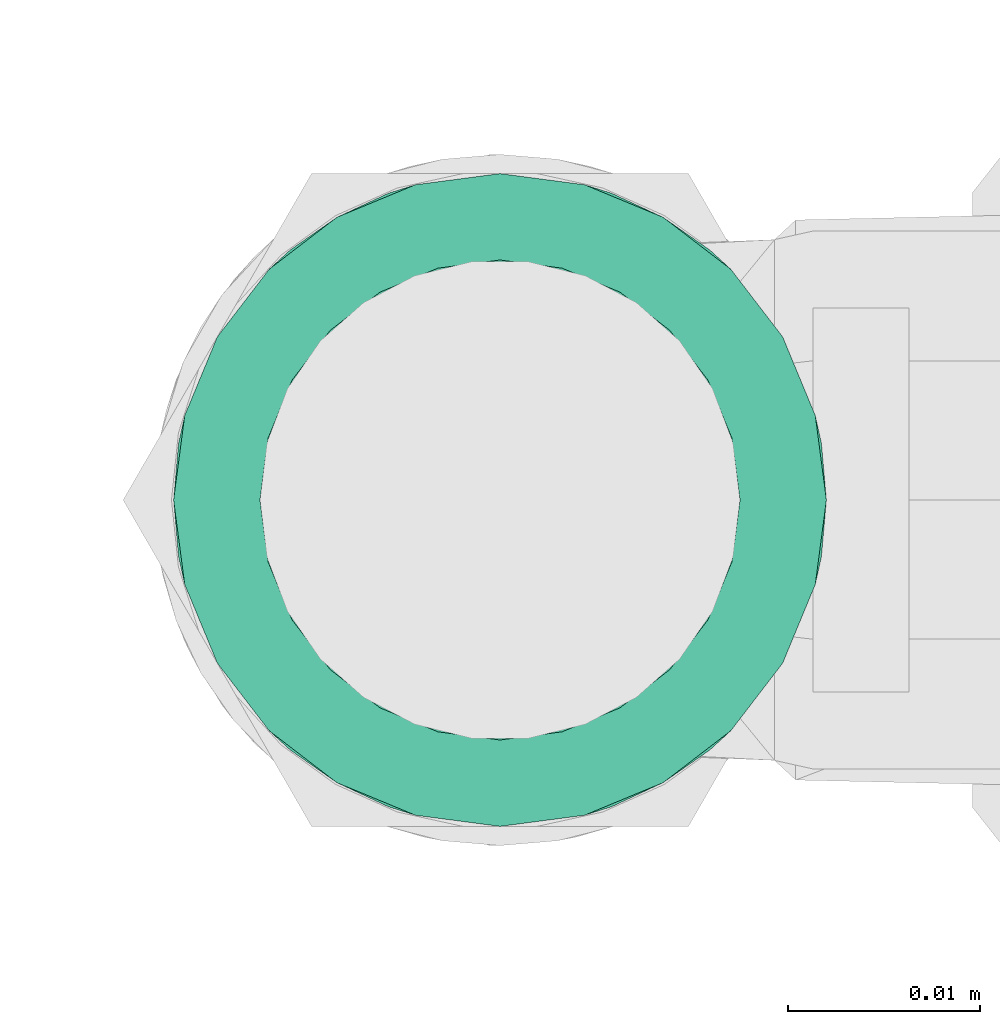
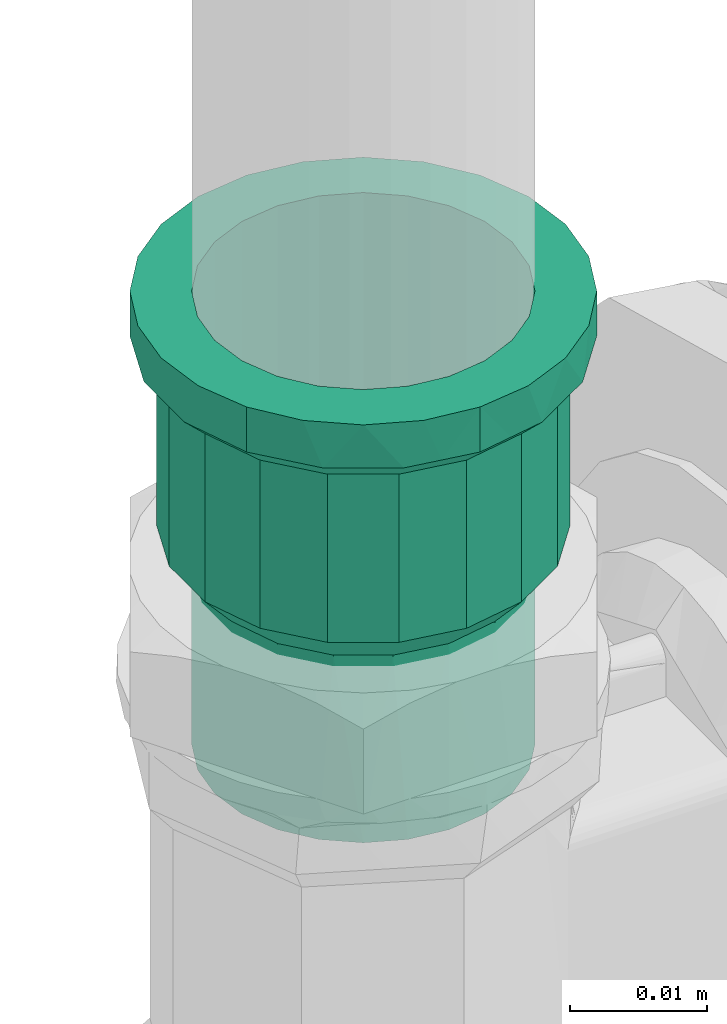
# One storey, part 393 of 589: 1 flow fitting.
"""IFC2X3 building model written with IfcOpenShell, lengths in millimetres."""

from ifc_helpers import new_model, entity, si_unit, converted_unit, derived_unit, direction, frame, origin, place, context, subcontext, project, spatial, faceted_brep, source, transform, mapped, material, type_object, type_shapes, element, save


model = new_model("IFC2X3")

# Units and contexts
model_context = context("Model", 3, precision=0.01, world=origin(), true_north=direction((6.123031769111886e-17, 1.0)))
body_context = subcontext(model_context, "Body", "Model", "MODEL_VIEW")
ifc_project = project(units=[si_unit("LENGTHUNIT", "METRE", prefix="MILLI"), si_unit("AREAUNIT", "SQUARE_METRE"), si_unit("VOLUMEUNIT", "CUBIC_METRE"), converted_unit("PLANEANGLEUNIT", "DEGREE", entity("IfcRatioMeasure", 0.017453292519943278), si_unit("PLANEANGLEUNIT", "RADIAN"), dimensions=[0, 0, 0, 0, 0, 0, 0]), si_unit("MASSUNIT", "GRAM", prefix="KILO"), derived_unit("MASSDENSITYUNIT", [(si_unit("MASSUNIT", "GRAM", prefix="KILO"), 1), (si_unit("LENGTHUNIT", "METRE"), -3)]), derived_unit("IONCONCENTRATIONUNIT", [(si_unit("MASSUNIT", "GRAM", prefix="KILO"), 1), (si_unit("LENGTHUNIT", "METRE"), -3)]), derived_unit("MOMENTOFINERTIAUNIT", [(si_unit("LENGTHUNIT", "METRE"), 4)]), si_unit("TIMEUNIT", "SECOND"), si_unit("FREQUENCYUNIT", "HERTZ"), si_unit("THERMODYNAMICTEMPERATUREUNIT", "DEGREE_CELSIUS"), derived_unit("THERMALTRANSMITTANCEUNIT", [(si_unit("MASSUNIT", "GRAM", prefix="KILO"), 1), (si_unit("THERMODYNAMICTEMPERATUREUNIT", "KELVIN"), -1), (si_unit("TIMEUNIT", "SECOND"), -3)]), derived_unit("THERMALCONDUCTANCEUNIT", [(si_unit("MASSUNIT", "GRAM", prefix="KILO"), 1), (si_unit("THERMODYNAMICTEMPERATUREUNIT", "KELVIN"), -1), (si_unit("TIMEUNIT", "SECOND"), -3), (si_unit("LENGTHUNIT", "METRE"), 1)]), derived_unit("VOLUMETRICFLOWRATEUNIT", [(si_unit("LENGTHUNIT", "METRE"), 3), (si_unit("TIMEUNIT", "SECOND"), -1)]), derived_unit("MASSFLOWRATEUNIT", [(si_unit("MASSUNIT", "GRAM", prefix="KILO"), 1), (si_unit("TIMEUNIT", "SECOND"), -1)]), derived_unit("ROTATIONALFREQUENCYUNIT", [(si_unit("TIMEUNIT", "SECOND"), -1)]), si_unit("ELECTRICCURRENTUNIT", "AMPERE"), si_unit("ELECTRICVOLTAGEUNIT", "VOLT"), si_unit("POWERUNIT", "WATT"), si_unit("FORCEUNIT", "NEWTON", prefix="KILO"), si_unit("ILLUMINANCEUNIT", "LUX"), si_unit("LUMINOUSFLUXUNIT", "LUMEN"), si_unit("LUMINOUSINTENSITYUNIT", "CANDELA"), derived_unit("USERDEFINED", [(si_unit("MASSUNIT", "GRAM", prefix="KILO"), -1), (si_unit("LENGTHUNIT", "METRE"), -2), (si_unit("TIMEUNIT", "SECOND"), 3), (si_unit("LUMINOUSFLUXUNIT", "LUMEN"), 1)]), derived_unit("USERDEFINED", [(si_unit("MASSUNIT", "GRAM", prefix="KILO"), 1), (si_unit("TIMEUNIT", "SECOND"), -3), (si_unit("LENGTHUNIT", "METRE"), 3), (si_unit("ELECTRICCURRENTUNIT", "AMPERE"), -2)]), derived_unit("SOUNDPOWERUNIT", [(si_unit("MASSUNIT", "GRAM", prefix="KILO"), 1), (si_unit("TIMEUNIT", "SECOND"), -3), (si_unit("LENGTHUNIT", "METRE"), 2)]), derived_unit("SOUNDPRESSUREUNIT", [(si_unit("MASSUNIT", "GRAM", prefix="KILO"), 1), (si_unit("LENGTHUNIT", "METRE"), -1), (si_unit("TIMEUNIT", "SECOND"), -2)]), derived_unit("LINEARVELOCITYUNIT", [(si_unit("LENGTHUNIT", "METRE"), 1), (si_unit("TIMEUNIT", "SECOND"), -1)]), si_unit("PRESSUREUNIT", "PASCAL"), derived_unit("USERDEFINED", [(si_unit("MASSUNIT", "GRAM", prefix="KILO"), 1), (si_unit("LENGTHUNIT", "METRE"), -2), (si_unit("TIMEUNIT", "SECOND"), -2)]), derived_unit("LINEARFORCEUNIT", [(si_unit("MASSUNIT", "GRAM", prefix="KILO"), 1), (si_unit("TIMEUNIT", "SECOND"), -2)]), derived_unit("PLANARFORCEUNIT", [(si_unit("MASSUNIT", "GRAM", prefix="KILO"), 1), (si_unit("LENGTHUNIT", "METRE"), -1), (si_unit("TIMEUNIT", "SECOND"), -2)]), derived_unit("SPECIFICHEATCAPACITYUNIT", [(si_unit("THERMODYNAMICTEMPERATUREUNIT", "KELVIN"), -1), (si_unit("LENGTHUNIT", "METRE"), 2), (si_unit("TIMEUNIT", "SECOND"), -2)]), derived_unit("HEATINGVALUEUNIT", [(si_unit("LENGTHUNIT", "METRE"), 2), (si_unit("TIMEUNIT", "SECOND"), -2)]), derived_unit("VAPORPERMEABILITYUNIT", [(si_unit("LENGTHUNIT", "METRE"), -1), (si_unit("TIMEUNIT", "SECOND"), 1)]), derived_unit("DYNAMICVISCOSITYUNIT", [(si_unit("MASSUNIT", "GRAM", prefix="KILO"), 1), (si_unit("TIMEUNIT", "SECOND"), -1), (si_unit("LENGTHUNIT", "METRE"), -1)]), derived_unit("THERMALEXPANSIONCOEFFICIENTUNIT", [(si_unit("THERMODYNAMICTEMPERATUREUNIT", "KELVIN"), -1)]), derived_unit("MODULUSOFELASTICITYUNIT", [(si_unit("MASSUNIT", "GRAM", prefix="KILO"), 1), (si_unit("LENGTHUNIT", "METRE"), -1), (si_unit("TIMEUNIT", "SECOND"), -2)]), derived_unit("ISOTHERMALMOISTURECAPACITYUNIT", [(si_unit("LENGTHUNIT", "METRE"), 3), (si_unit("MASSUNIT", "GRAM", prefix="KILO"), -1)]), derived_unit("MOISTUREDIFFUSIVITYUNIT", [(si_unit("TIMEUNIT", "SECOND"), -1), (si_unit("LENGTHUNIT", "METRE"), 2)])], contexts=[model_context])

# Site, building, storey
site_placement = place(None, origin())
site = spatial("IfcSite", under=ifc_project, at=site_placement, Name="Default", CompositionType="ELEMENT")
building_placement = place(site_placement, origin())
building = spatial("IfcBuilding", under=site, at=building_placement, CompositionType="ELEMENT")
storey_placement = place(building_placement, frame((0.0, 0.0, 100.0)))
storey = spatial("IfcBuildingStorey", under=building, at=storey_placement, Name="TÉRREO", CompositionType="ELEMENT", Elevation=100.0)

# Flow fitting
ifc_material = material(Name="PVC Marrom")
pipe_fitting_type = type_object("IfcPipeFittingType", Name="PVC Marrom Soldável_Adaptador Curto com Bolsa e Rosca Aninhado_Rodrigo MEP:Adaptador", PredefinedType="NOTDEFINED", material=ifc_material)
shared_shape = source(origin(), body_context, "Body", "Brep", [
    faceted_brep([(0.0, 6.2499999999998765, -10.825317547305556), (0.0, 12.020815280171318, -12.0208152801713), (0.0, 8.500000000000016, -14.72243186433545), (0.0, 8.838834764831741, -8.83883476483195), (0.0, 3.2352380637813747, -12.07407282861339), (0.0, 14.722431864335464, -8.499999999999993), (0.0, 10.825317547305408, -6.250000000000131), (0.0, 12.074072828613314, -3.2352380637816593), (0.0, 16.42073904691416, -4.399923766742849), (0.0, 12.5, 0.0), (0.0, 17.0, 0.0), (0.0, 12.074072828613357, 3.2352380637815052), (0.0, 16.420739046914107, 4.399923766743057), (0.0, 10.825317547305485, 6.2499999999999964), (0.0, 14.722431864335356, 8.500000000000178), (0.0, 8.83883476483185, 8.838834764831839), (0.0, 12.020815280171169, 12.020815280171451), (0.0, 6.250000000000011, 10.82531754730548), (0.0, 8.499999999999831, 14.722431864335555), (0.0, 3.2352380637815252, 12.07407282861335), (0.0, 4.39992376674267, 16.42073904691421), (0.0, 0.0, 12.5), (0.0, 0.0, 17.0), (0.0, -3.2352380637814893, 12.07407282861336), (0.0, -4.399923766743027, 16.420739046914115), (0.0, -6.24999999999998, 10.825317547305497), (0.0, -8.500000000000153, 14.722431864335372), (0.0, -8.838834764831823, 8.838834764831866), (0.0, -12.020815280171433, 12.020815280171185), (0.0, -10.82531754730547, 6.250000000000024), (0.0, -14.722431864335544, 8.499999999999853), (0.0, -16.42073904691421, 4.399923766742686), (0.0, -12.074072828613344, 3.2352380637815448), (0.0, -17.0, 0.0), (0.0, -12.5, 0.0), (0.0, -16.42073904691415, -4.399923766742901), (0.0, -12.074072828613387, -3.235238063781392), (0.0, -14.722431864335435, -8.500000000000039), (0.0, -10.82531754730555, -6.249999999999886), (0.0, -12.02081528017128, -12.020815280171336), (0.0, -8.838834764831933, -8.838834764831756), (0.0, -8.499999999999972, -14.722431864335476), (0.0, -6.250000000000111, -10.825317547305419), (0.0, -4.399923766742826, -16.42073904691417), (0.0, -3.235238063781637, -12.074072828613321), (0.0, 0.0, -17.0), (0.0, 0.0, -12.5), (0.0, 4.399923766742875, -16.420739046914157), (4.0, -16.487306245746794, 2.907393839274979), (4.0, -15.974612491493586, 5.8147876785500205), (4.0, -13.022146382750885, 10.928115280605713), (4.0, -10.760457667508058, 12.825628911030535), (4.0, -14.498379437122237, 8.371451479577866), (4.0, -2.9501525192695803, 16.742060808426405), (4.0, -5.724460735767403, 15.732601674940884), (4.0, -17.0, 0.0), (4.0, -16.59968259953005, 2.27012779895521), (4.0, -8.498768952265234, 14.723142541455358), (4.0, 5.728407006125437, 15.731165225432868), (4.0, 8.502461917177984, 14.721010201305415), (4.0, 2.954352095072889, 16.74132024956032), (4.0, 10.763674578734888, 12.82292929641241), (4.0, 13.02488724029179, 10.924848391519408), (4.0, 15.976070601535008, 5.8107803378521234), (4.0, 17.0, 0.0), (4.0, 14.5004789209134, 8.367814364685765), (4.0, 0.002099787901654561, 16.741690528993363), (4.0, 15.97607060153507, -5.810780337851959), (4.0, 13.024887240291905, -10.92484839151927), (4.0, 10.763674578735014, -12.822929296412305), (4.0, 14.500478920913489, -8.367814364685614), (4.0, 2.9543520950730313, -16.741320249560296), (4.0, 5.728407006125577, -15.731165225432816), (4.0, 8.502461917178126, -14.721010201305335), (4.0, -16.487306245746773, -2.907393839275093), (4.0, -5.724460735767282, -15.732601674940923), (4.0, -8.498768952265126, -14.72314254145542), (4.0, -2.950152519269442, -16.74206080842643), (4.0, -10.760457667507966, -12.825628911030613), (4.0, -13.022146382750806, -10.928115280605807), (4.0, -15.974612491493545, -5.814787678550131), (4.0, -14.498379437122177, -8.371451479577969), (4.0, 0.002099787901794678, -16.741690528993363), (4.0, -16.599682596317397, -2.2701278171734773), (20.84999999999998, -14.142230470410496, 5.147797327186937), (5.900000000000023, -14.142230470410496, 5.147797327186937), (5.900000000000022, -14.59611523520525, 2.573898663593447), (5.900000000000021, -15.05, 0.0), (20.850000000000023, -15.05, 0.0), (20.85, -14.596115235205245, 2.573898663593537), (20.849999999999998, -14.535973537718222, 2.91495138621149), (20.84999999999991, -7.523910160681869, 13.034311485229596), (5.900000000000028, -7.523910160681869, 13.034311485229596), (5.900000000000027, -9.526169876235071, 11.354453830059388), (5.900000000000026, -11.528429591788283, 9.674596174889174), (20.84999999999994, -11.528429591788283, 9.674596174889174), (20.849999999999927, -9.52616987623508, 11.354453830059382), (5.900000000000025, -12.83533003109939, 7.411196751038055), (20.849999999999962, -12.835330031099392, 7.411196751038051), (5.900000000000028, -5.067831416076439, 13.927979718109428), (20.849999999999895, -5.067831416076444, 13.927979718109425), (20.849999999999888, -2.6117526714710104, 14.821647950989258), (5.900000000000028, -2.6117526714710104, 14.821647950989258), (5.900000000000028, 0.0018589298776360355, 14.8213201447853), (20.849999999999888, 0.0018589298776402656, 14.821320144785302), (20.849999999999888, 2.61547053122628, 14.820992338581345), (5.900000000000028, 2.615470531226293, 14.820992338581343), (20.849999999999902, 7.527179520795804, 13.032423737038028), (5.900000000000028, 7.527179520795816, 13.032423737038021), (5.900000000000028, 5.071325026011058, 13.92670803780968), (20.849999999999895, 5.0713250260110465, 13.926708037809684), (20.84999999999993, 11.530856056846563, 9.671704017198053), (5.900000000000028, 11.530856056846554, 9.671704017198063), (5.900000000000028, 9.52901778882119, 11.35206387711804), (20.849999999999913, 9.529017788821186, 11.352063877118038), (20.849999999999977, 14.143521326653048, 5.144249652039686), (5.900000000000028, 14.143521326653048, 5.144249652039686), (5.900000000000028, 12.837188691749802, 7.407976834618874), (20.849999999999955, 12.837188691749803, 7.407976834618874), (20.850000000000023, 15.05, 0.0), (5.900000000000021, 15.05, 0.0), (20.85000000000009, 14.143521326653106, -5.144249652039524), (5.900000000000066, 14.143521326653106, -5.144249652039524), (5.900000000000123, 7.527179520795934, -13.032423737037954), (5.900000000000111, 9.529017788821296, -11.352063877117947), (5.900000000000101, 11.530856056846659, -9.67170401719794), (20.85000000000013, 11.530856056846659, -9.67170401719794), (20.85000000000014, 9.529017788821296, -11.352063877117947), (20.850000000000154, 7.527179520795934, -13.032423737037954), (20.850000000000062, -14.142230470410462, -5.147797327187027), (5.900000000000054, -14.142230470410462, -5.147797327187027), (5.90000000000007, -12.835330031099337, -7.411196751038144), (5.900000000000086, -11.528429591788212, -9.67459617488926), (20.850000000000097, -11.528429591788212, -9.67459617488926), (20.850000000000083, -12.835330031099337, -7.411196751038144), (20.850000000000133, -7.523910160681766, -13.034311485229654), (5.900000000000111, -7.523910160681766, -13.034311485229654), (5.90000000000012, -5.067831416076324, -13.927979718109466), (5.900000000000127, -2.6117526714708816, -14.821647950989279), (20.850000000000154, -2.6117526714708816, -14.821647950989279), (20.85000000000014, -5.067831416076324, -13.927979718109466), (5.900000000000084, 12.837188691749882, -7.407976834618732), (20.850000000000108, 12.837188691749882, -7.40797683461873), (5.900000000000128, 5.071325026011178, -13.926708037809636), (20.850000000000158, 5.071325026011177, -13.926708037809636), (20.85000000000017, 2.6154705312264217, -14.82099233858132), (5.900000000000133, 2.6154705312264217, -14.82099233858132), (20.850000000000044, -14.535973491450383, -2.91495164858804), (20.85000000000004, -14.667751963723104, -2.1676596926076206), (5.900000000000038, -14.596115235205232, -2.573898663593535), (5.900000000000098, -9.526169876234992, -11.354453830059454), (20.850000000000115, -9.52616987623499, -11.354453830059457), (5.900000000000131, 0.0018589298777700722, -14.821320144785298), (20.850000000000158, 0.0018589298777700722, -14.821320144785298), (40.29999999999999, 3.2352380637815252, -12.07407282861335), (40.29999999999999, 6.250000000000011, -10.82531754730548), (40.29999999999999, 8.83883476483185, -8.838834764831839), (40.29999999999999, 10.825317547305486, -6.249999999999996), (40.29999999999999, 12.074072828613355, -3.2352380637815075), (40.29999999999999, 12.5, 0.0), (40.29999999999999, 12.074072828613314, 3.2352380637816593), (40.29999999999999, 10.825317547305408, 6.250000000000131), (40.29999999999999, 8.838834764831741, 8.83883476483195), (40.29999999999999, 6.2499999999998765, 10.825317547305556), (40.29999999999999, 3.2352380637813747, 12.07407282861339), (40.29999999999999, 0.0, 12.5), (40.29999999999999, -3.235238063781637, 12.074072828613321), (40.29999999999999, -6.250000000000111, 10.825317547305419), (40.29999999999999, -8.838834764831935, 8.838834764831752), (40.29999999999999, -10.825317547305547, 6.249999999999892), (40.29999999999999, -12.074072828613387, 3.235238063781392), (40.29999999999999, -12.5, 0.0), (40.29999999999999, -12.074072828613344, -3.2352380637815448), (40.29999999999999, -10.825317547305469, -6.2500000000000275), (40.29999999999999, -8.838834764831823, -8.838834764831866), (40.29999999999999, -6.24999999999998, -10.825317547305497), (40.29999999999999, -3.2352380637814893, -12.07407282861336), (40.29999999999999, 0.0, -12.5), (23.749999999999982, -12.5, 0.0), (23.74999999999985, -9.57510763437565, 8.035378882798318), (23.749999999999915, -11.746038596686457, 4.275579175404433), (23.749999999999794, -6.249094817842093, 10.825840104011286), (23.74999999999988, -10.660573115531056, 6.155479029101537), (23.74999999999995, -12.182518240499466, 1.8003818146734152), (23.74999999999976, -2.1692297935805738, 12.310338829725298), (23.74999999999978, -4.209162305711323, 11.56808946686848), (23.74999999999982, -7.912101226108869, 9.430609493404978), (23.749999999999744, 2.1723177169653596, 12.309794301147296), (23.749999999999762, 6.251810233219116, 10.824272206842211), (23.749999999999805, 9.577122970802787, 8.032976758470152), (23.749999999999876, 11.747110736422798, 4.272632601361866), (23.749999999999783, 7.9144666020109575, 9.428624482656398), (23.74999999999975, 4.212063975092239, 11.56703325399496), (23.749999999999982, 12.5, 0.0), (23.749999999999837, 10.662116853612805, 6.15280467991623), (23.74999999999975, 0.0015439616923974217, 12.31006656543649), (23.750000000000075, 9.577122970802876, -8.032976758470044), (23.75000000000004, 11.747110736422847, -4.272632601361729), (23.750000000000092, 6.2518102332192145, -10.824272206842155), (23.750000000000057, 10.662116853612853, -6.152804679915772), (23.7500000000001, 2.1723177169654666, -12.309794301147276), (23.7500000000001, 4.212063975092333, -11.56703325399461), (23.75000000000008, 7.914466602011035, -9.428624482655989), (23.750000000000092, -2.1692297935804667, -12.310338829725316), (23.750000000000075, -6.249094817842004, -10.82584010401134), (23.750000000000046, -9.575107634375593, -8.035378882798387), (23.750000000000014, -11.74603859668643, -4.275579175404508), (23.750000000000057, -7.912101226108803, -9.430609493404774), (23.75000000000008, -4.20916230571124, -11.56808946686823), (23.749999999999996, -12.123019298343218, -2.1377895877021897), (23.750000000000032, -10.660573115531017, -6.155479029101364), (23.7500000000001, 0.0015439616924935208, -12.310066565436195), (5.900000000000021, -12.5, 0.0), (20.850000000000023, -12.5, 0.0), (20.850000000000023, -12.07407282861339, -3.2352380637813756), (5.900000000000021, -12.07407282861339, -3.2352380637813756), (4.0, -12.07407282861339, -3.2352380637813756), (4.0, -12.5, 0.0), (20.850000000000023, -10.825317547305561, -6.249999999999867), (5.900000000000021, -10.825317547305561, -6.249999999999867), (4.0, -10.825317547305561, -6.249999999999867), (5.900000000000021, -6.250000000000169, -10.825317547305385), (4.0, -6.250000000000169, -10.825317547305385), (4.0, -8.838834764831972, -8.838834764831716), (5.900000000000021, -8.838834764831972, -8.838834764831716), (20.850000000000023, -8.838834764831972, -8.838834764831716), (20.850000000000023, -6.250000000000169, -10.825317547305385), (5.900000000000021, -3.235238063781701, -12.074072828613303), (4.0, -3.235238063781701, -12.074072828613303), (20.850000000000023, -3.235238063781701, -12.074072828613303), (20.850000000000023, 0.0, -12.5), (5.900000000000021, 0.0, -12.5), (4.0, 0.0, -12.5), (20.850000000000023, 3.2352380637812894, -12.074072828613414), (5.900000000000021, 3.2352380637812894, -12.074072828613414), (4.0, 3.2352380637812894, -12.074072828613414), (20.850000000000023, 6.24999999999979, -10.825317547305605), (5.900000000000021, 6.24999999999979, -10.825317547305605), (4.0, 6.24999999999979, -10.825317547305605), (5.900000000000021, 10.825317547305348, -6.250000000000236), (4.0, 10.825317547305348, -6.250000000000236), (4.0, 8.838834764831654, -8.838834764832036), (5.900000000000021, 8.838834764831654, -8.838834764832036), (20.850000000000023, 8.838834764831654, -8.838834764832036), (20.850000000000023, 10.825317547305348, -6.250000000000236), (5.900000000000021, 12.07407282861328, -3.2352380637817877), (4.0, 12.07407282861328, -3.2352380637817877), (20.850000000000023, 12.07407282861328, -3.2352380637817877), (20.850000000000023, 12.5, 0.0), (5.900000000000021, 12.5, 0.0), (4.0, 12.5, 0.0), (20.850000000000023, 12.074072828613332, 3.2352380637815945), (5.900000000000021, 12.074072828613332, 3.2352380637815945), (4.0, 12.074072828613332, 3.2352380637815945), (20.850000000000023, 10.82531754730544, 6.250000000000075), (5.900000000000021, 10.82531754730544, 6.250000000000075), (4.0, 10.82531754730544, 6.250000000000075), (5.900000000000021, 6.249999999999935, 10.825317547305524), (4.0, 6.249999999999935, 10.825317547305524), (4.0, 8.838834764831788, 8.838834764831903), (5.900000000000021, 8.838834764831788, 8.838834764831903), (20.850000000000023, 8.838834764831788, 8.838834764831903), (20.850000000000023, 6.249999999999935, 10.825317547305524), (5.900000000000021, 3.2352380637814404, 12.074072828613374), (4.0, 3.2352380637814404, 12.074072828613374), (20.850000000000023, 3.2352380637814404, 12.074072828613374), (20.850000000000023, 0.0, 12.5), (5.900000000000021, 0.0, 12.5), (4.0, 0.0, 12.5), (20.850000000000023, -3.2352380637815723, 12.074072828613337), (5.900000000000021, -3.2352380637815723, 12.074072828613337), (4.0, -3.2352380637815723, 12.074072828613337), (20.850000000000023, -6.250000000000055, 10.825317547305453), (5.900000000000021, -6.250000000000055, 10.825317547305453), (4.0, -6.250000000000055, 10.825317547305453), (5.900000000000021, -10.825317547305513, 6.249999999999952), (4.0, -10.825317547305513, 6.249999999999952), (4.0, -8.838834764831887, 8.838834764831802), (5.900000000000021, -8.838834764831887, 8.838834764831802), (20.850000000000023, -8.838834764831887, 8.838834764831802), (20.850000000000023, -10.825317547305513, 6.249999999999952), (5.900000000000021, -12.07407282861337, 3.2352380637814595), (4.0, -12.07407282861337, 3.2352380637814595), (20.850000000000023, -12.07407282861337, 3.2352380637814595)], [[[0, 1, 2]], [[3, 1, 0]], [[4, 0, 2]], [[1, 3, 5]], [[5, 3, 6]], [[5, 6, 7]], [[8, 5, 7]], [[9, 8, 7]], [[10, 8, 9]], [[10, 9, 11]], [[12, 10, 11]], [[12, 11, 13]], [[14, 12, 13]], [[14, 13, 15]], [[15, 16, 14]], [[15, 17, 16]], [[18, 16, 17]], [[19, 18, 17]], [[18, 19, 20]], [[21, 20, 19]], [[22, 20, 21]], [[21, 23, 22]], [[24, 22, 23]], [[25, 24, 23]], [[24, 25, 26]], [[25, 27, 26]], [[27, 28, 26]], [[28, 27, 29]], [[28, 29, 30]], [[30, 29, 31]], [[31, 29, 32]], [[33, 31, 32]], [[32, 34, 33]], [[33, 34, 35]], [[34, 36, 35]], [[37, 35, 36]], [[37, 36, 38]], [[39, 37, 38]], [[40, 39, 38]], [[40, 41, 39]], [[42, 41, 40]], [[43, 41, 42]], [[42, 44, 43]], [[43, 44, 45]], [[46, 45, 44]], [[46, 4, 47]], [[45, 46, 47]], [[2, 47, 4]], [[48, 49, 31]], [[28, 50, 51]], [[50, 30, 49, 52]], [[53, 24, 54]], [[30, 31, 49]], [[33, 55, 56, 48]], [[51, 57, 26]], [[51, 26, 28]], [[30, 50, 28]], [[58, 59, 18]], [[58, 18, 20]], [[26, 57, 54]], [[26, 54, 24]], [[22, 24, 53]], [[33, 48, 31]], [[20, 60, 58]], [[16, 61, 62]], [[12, 63, 64]], [[63, 14, 62, 65]], [[12, 64, 10]], [[18, 61, 16]], [[22, 53, 66, 60]], [[22, 60, 20]], [[14, 16, 62]], [[59, 61, 18]], [[14, 63, 12]], [[8, 64, 67]], [[1, 68, 69]], [[68, 5, 67, 70]], [[71, 47, 72]], [[5, 8, 67]], [[8, 10, 64]], [[2, 72, 47]], [[69, 73, 2]], [[5, 68, 1]], [[74, 33, 35]], [[75, 76, 41]], [[2, 73, 72]], [[75, 41, 43]], [[45, 47, 71]], [[69, 2, 1]], [[43, 77, 75]], [[39, 78, 79]], [[35, 80, 74]], [[80, 37, 79, 81]], [[37, 80, 35]], [[41, 78, 39]], [[45, 71, 82, 77]], [[45, 77, 43]], [[37, 39, 79]], [[76, 78, 41]], [[33, 74, 83, 55]], [[84, 85, 86, 87, 88, 89, 90]], [[91, 92, 93, 94, 95, 96]], [[97, 85, 84, 98, 95, 94]], [[99, 92, 91, 100, 101, 102]], [[103, 102, 101, 104, 105, 106]], [[107, 108, 109, 106, 105, 110]], [[111, 112, 113, 108, 107, 114]], [[115, 116, 117, 112, 111, 118]], [[115, 119, 120, 116]], [[120, 119, 121, 122]], [[123, 124, 125, 126, 127, 128]], [[129, 130, 131, 132, 133, 134]], [[135, 136, 137, 138, 139, 140]], [[141, 122, 121, 142, 126, 125]], [[143, 123, 128, 144, 145, 146]], [[147, 148, 88, 87, 149, 130, 129]], [[133, 132, 150, 136, 135, 151]], [[152, 146, 145, 153, 139, 138]], [[154, 155, 156, 157, 158, 159, 160, 161, 162, 163, 164, 165, 166, 167, 168, 169, 170, 171, 172, 173, 174, 175, 176, 177]], [[178, 171, 170]], [[179, 169, 168]], [[170, 169, 180]], [[168, 167, 181]], [[169, 179, 182, 180]], [[170, 180, 183, 178]], [[166, 184, 185, 181]], [[168, 181, 186, 179]], [[184, 166, 165]], [[181, 167, 166]], [[164, 187, 165]], [[163, 188, 164]], [[189, 162, 161]], [[163, 162, 188]], [[190, 161, 160]], [[162, 189, 191, 188]], [[164, 188, 192, 187]], [[160, 193, 190]], [[161, 190, 194, 189]], [[160, 159, 193]], [[165, 187, 195, 184]], [[193, 159, 158]], [[196, 157, 156]], [[158, 157, 197]], [[156, 155, 198]], [[157, 196, 199, 197]], [[197, 193, 158]], [[154, 200, 201, 198]], [[156, 198, 202, 196]], [[200, 154, 177]], [[198, 155, 154]], [[176, 203, 177]], [[175, 204, 176]], [[205, 174, 173]], [[175, 174, 204]], [[206, 173, 172]], [[174, 205, 207, 204]], [[176, 204, 208, 203]], [[172, 178, 209, 206]], [[173, 206, 210, 205]], [[172, 171, 178]], [[177, 203, 211, 200]], [[212, 213, 214, 215, 216, 36, 34, 217]], [[215, 214, 218, 219, 220, 38, 36, 216]], [[221, 222, 42, 40, 223, 224, 225, 226]], [[225, 224, 223, 40, 38, 220, 219, 218]], [[227, 228, 44, 42, 222, 221, 226, 229]], [[227, 229, 230, 231, 232, 46, 44, 228]], [[231, 230, 233, 234, 235, 4, 46, 232]], [[234, 233, 236, 237, 238, 0, 4, 235]], [[239, 240, 6, 3, 241, 242, 243, 244]], [[243, 242, 241, 3, 0, 238, 237, 236]], [[245, 246, 7, 6, 240, 239, 244, 247]], [[245, 247, 248, 249, 250, 9, 7, 246]], [[249, 248, 251, 252, 253, 11, 9, 250]], [[252, 251, 254, 255, 256, 13, 11, 253]], [[257, 258, 17, 15, 259, 260, 261, 262]], [[261, 260, 259, 15, 13, 256, 255, 254]], [[263, 264, 19, 17, 258, 257, 262, 265]], [[263, 265, 266, 267, 268, 21, 19, 264]], [[267, 266, 269, 270, 271, 23, 21, 268]], [[270, 269, 272, 273, 274, 25, 23, 271]], [[275, 276, 29, 27, 277, 278, 279, 280]], [[279, 278, 277, 27, 25, 274, 273, 272]], [[281, 282, 32, 29, 276, 275, 280, 283]], [[281, 283, 213, 212, 217, 34, 32, 282]], [[120, 122, 67, 64]], [[73, 123, 143, 146, 71, 72]], [[123, 73, 69, 68, 125, 124]], [[70, 67, 122, 141, 125, 68]], [[77, 138, 137, 136, 76, 75]], [[130, 80, 81, 79, 132, 131]], [[149, 87, 55, 83, 74, 80, 130]], [[82, 71, 146, 152, 138, 77]], [[78, 76, 136, 150, 132, 79]], [[49, 48, 56, 55, 87, 86, 85]], [[52, 49, 85, 97, 94, 50]], [[51, 50, 94, 93, 92, 57]], [[92, 99, 102, 53, 54, 57]], [[103, 106, 60, 66, 53, 102]], [[109, 108, 59, 58, 60, 106]], [[116, 120, 64, 63]], [[112, 117, 116, 63, 65, 62]], [[108, 113, 112, 62, 61, 59]], [[233, 230, 229, 226, 225, 218, 214, 213, 283, 280, 279, 272, 269, 266, 265, 262, 261, 254, 251, 248, 247, 244, 243, 236]], [[180, 84, 90, 89, 88, 178, 183]], [[184, 101, 100, 91, 181, 185]], [[96, 95, 179, 186, 181, 91]], [[98, 84, 180, 182, 179, 95]], [[101, 184, 195, 187, 105, 104]], [[190, 115, 118, 111, 189, 194]], [[105, 187, 192, 188, 107, 110]], [[190, 193, 119, 115]], [[114, 107, 188, 191, 189, 111]], [[193, 197, 121, 119]], [[128, 198, 201, 200, 145, 144]], [[198, 128, 127, 126, 196, 202]], [[142, 121, 197, 199, 196, 126]], [[139, 203, 208, 204, 135, 140]], [[206, 129, 134, 133, 205, 210]], [[209, 178, 88, 148, 147, 129, 206]], [[153, 145, 200, 211, 203, 139]], [[151, 135, 204, 207, 205, 133]]]),
])
type_shapes(pipe_fitting_type, [shared_shape])
flow_fitting_placement = place(storey_placement, frame((4629.553225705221, -949.8765311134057, 2254.75), z_axis=(1.0, 0.0, 0.0), x_axis=(0.0, 0.0, -1.0)))
element("IfcFlowFitting", 1, at=flow_fitting_placement, inside=storey, type_object=pipe_fitting_type, material=ifc_material, Name="PVC Marrom Soldável_Adaptador Curto com Bolsa e Rosca Aninhado_Rodrigo MEP:Adaptador", ObjectType="PVC Marrom Soldável_Adaptador Curto com Bolsa e Rosca Aninhado_Rodrigo MEP:Adaptador", context=body_context, shape_type="MappedRepresentation", body=[
    mapped(shared_shape, transform((0.0, 0.0, 0.0), scale=1.0)),
])

save(model, "model.ifc")
